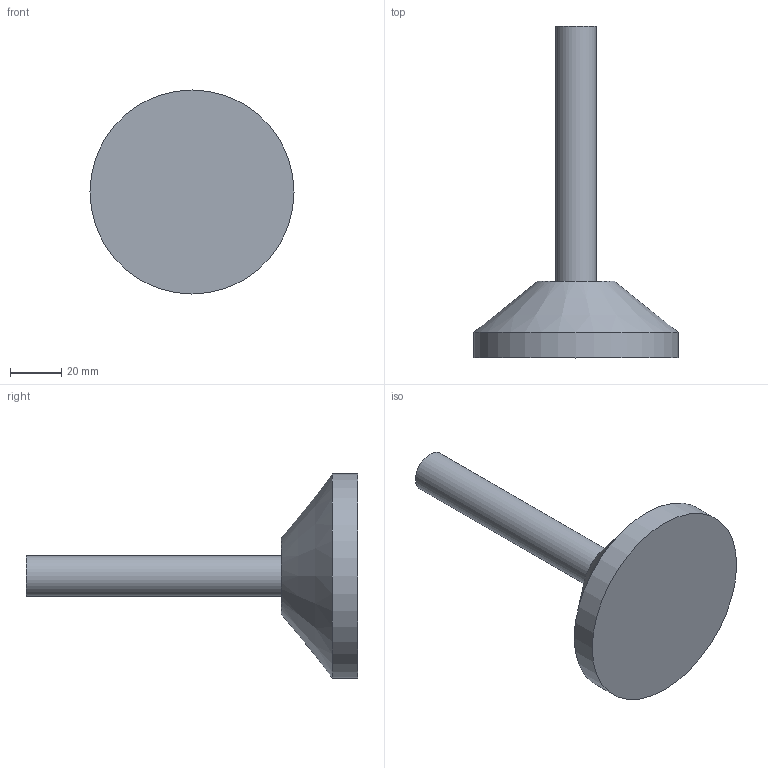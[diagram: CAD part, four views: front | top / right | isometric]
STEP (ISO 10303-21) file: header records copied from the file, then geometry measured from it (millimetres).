
FILE_DESCRIPTION(('STEP AP214'), '1');
FILE_NAME('M16x100-80R - 鎔摫闇瀁譇', '', ('UNSPECIFIED'), ('UNSPECIFIED'), 'ASCON STEP Converter 1.6', 'ASCON Math Kernel', '');
FILE_SCHEMA(('AUTOMOTIVE_DESIGN { 1 0 10303 214 3 1 1}'));
Length unit declared in the file: millimetre
Bounding box: 80 x 130 x 80 mm (x, y, z)
Volume: 121160.8 mm3; surface area: 18805.1 mm2
Topology: 1 solids, 1 shells, 6 faces, 8 edges, 5 vertices
Faces by surface type: plane 3, cylinder 2, cone 1
Full cylindrical faces by diameter (mm): 16 x1, 80 x1
Entity records: 206 total; most frequent: DIRECTION 24, CARTESIAN_POINT 17, AXIS2_PLACEMENT_3D 12, EDGE_LOOP 10, ORIENTED_EDGE 10, COLOUR_RGB 7, FILL_AREA_STYLE_COLOUR 7, FILL_AREA_STYLE 7
